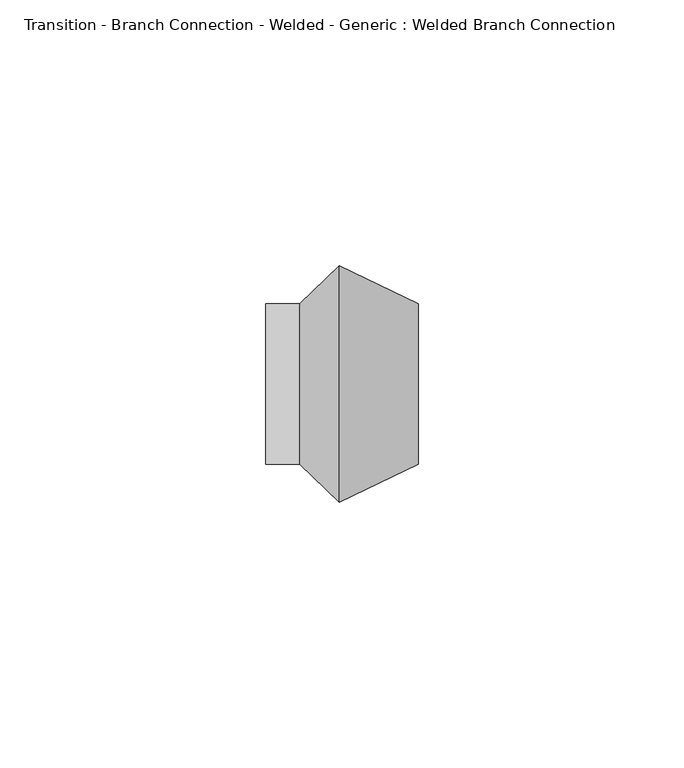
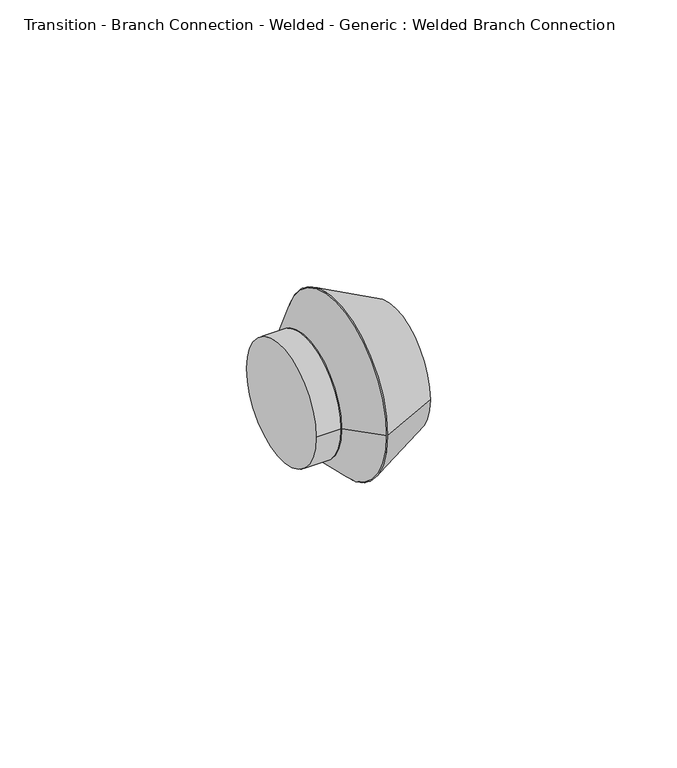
"""IFC4 building model written with IfcOpenShell, lengths in millimetres: pipe fitting geometry, Transition - Branch Connection - Welded - Generic : Welded Branch Connection."""

from ifc_helpers import new_model, si_unit, point, frame, origin, origin_2d, place, context, project, spatial, polyline, circle_curve, trimmed, segment, composite_curve, outline, extrude, source, transform, mapped, element, save
from ifc_brep_helpers import plane_surface, revolved_surface, advanced_brep


def transition_branch_connection_welded_generic_welded_branch_fed6c8cd(model_context):
    return source(origin(), model_context, "Body", "SolidModel", [
        advanced_brep(
        [(7.408371, 22.225, 0.0), (7.408371, -22.225, 0.0), (22.225113, 15.08125, 0.0), (22.225113, -15.08125, 0.0)],
        [
            (0, 1, circle_curve(frame((7.408371, 0.0, 0.0), z_axis=(-1.0, 0.0, 0.0), x_axis=(0.0, -1.0, 0.0)), 22.225)),
            (1, 0, circle_curve(frame((7.408371, 0.0, 0.0), z_axis=(-1.0, 0.0, 0.0), x_axis=(0.0, 1.0, 0.0)), 22.225)),
            (2, 3, circle_curve(frame((22.225113, 0.0, 0.0), z_axis=(1.0, 0.0, 0.0), x_axis=(0.0, 1.0, 0.0)), 15.08125)),
            (3, 2, circle_curve(frame((22.225113, 0.0, 0.0), z_axis=(1.0, 0.0, 0.0), x_axis=(0.0, -1.0, 0.0)), 15.08125)),
            (3, 1),
            (0, 2),
        ],
        [
            plane_surface(frame((7.408371, 0.0, 0.0), z_axis=(-1.0, 0.0, 0.0), x_axis=(0.0, 0.0, -1.0))),
            plane_surface(frame((22.225113, 0.0, 0.0), z_axis=(1.0, 0.0, 0.0), x_axis=(0.0, 0.0, -1.0))),
            revolved_surface(polyline([(22.225113, -15.081250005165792, 0.0), (7.4083710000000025, -22.225, 0.0)]), (53.5049017, 0.0, 0.0), (-1.0, 0.0, 0.0)),
            revolved_surface(polyline([(22.225113, 15.081250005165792, 0.0), (7.4083710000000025, 22.225, 0.0)]), (53.5049017, 0.0, 0.0), (-1.0, 0.0, 0.0)),
        ],
        [
            (0, [[1, 2]]),
            (1, [[3, 4]]),
            (2, [[5, -1, 6, -4]]),
            (3, [[-6, -2, -5, -3]]),
        ],
    ),
        advanced_brep(
        [(7.408371, 22.225, 0.0), (7.408371, -22.225, 0.0), (0.0, 15.08125, 0.0), (0.0, -15.08125, 0.0)],
        [
            (0, 1, circle_curve(frame((7.408371, 0.0, 0.0), z_axis=(1.0, 0.0, 0.0), x_axis=(0.0, -1.0, 0.0)), 22.225)),
            (1, 0, circle_curve(frame((7.408371, 0.0, 0.0), z_axis=(1.0, 0.0, 0.0), x_axis=(0.0, 1.0, 0.0)), 22.225)),
            (2, 3, circle_curve(frame((0.0, 0.0, 0.0), z_axis=(-1.0, 0.0, 0.0), x_axis=(0.0, 1.0, 0.0)), 15.08125)),
            (3, 2, circle_curve(frame((0.0, 0.0, 0.0), z_axis=(-1.0, 0.0, 0.0), x_axis=(0.0, -1.0, 0.0)), 15.08125)),
            (2, 0),
            (1, 3),
        ],
        [
            plane_surface(frame((7.408371, 0.0, 0.0), z_axis=(1.0, 0.0, 0.0), x_axis=(0.0, 0.0, -1.0))),
            plane_surface(frame((0.0, 0.0, 0.0), z_axis=(-1.0, 0.0, 0.0), x_axis=(0.0, 0.0, -1.0))),
            revolved_surface(polyline([(0.0, 15.08124998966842, 0.0), (7.408371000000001, 22.225, 0.0)]), (-15.6398943, 0.0, 0.0), (1.0, 0.0, 0.0)),
            revolved_surface(polyline([(0.0, -15.08124998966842, 0.0), (7.408371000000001, -22.225, 0.0)]), (-15.6398943, 0.0, 0.0), (1.0, 0.0, 0.0)),
        ],
        [
            (0, [[1, 2]]),
            (1, [[3, 4]]),
            (2, [[5, -2, 6, -3]]),
            (3, [[-6, -1, -5, -4]]),
        ],
    ),
        extrude(outline(composite_curve([segment(trimmed(circle_curve(origin_2d(), 15.08125), [point((15.08125, 0.0))], [point((-15.08125, 0.0))], False, "CARTESIAN"), True, "CONTINUOUS"), segment(trimmed(circle_curve(origin_2d(), 15.08125), [point((-15.08125, 0.0))], [point((15.08125, 0.0))], False, "CARTESIAN"), True, "CONTINUOUS")], self_intersect=False)), frame((-6.4286728, 0.0, 0.0), z_axis=(1.0, 0.0, 0.0), x_axis=(0.0, 1.0, 0.0)), (0.0, 0.0, 1.0), 6.4286728),
    ])


if __name__ == "__main__":
    model = new_model("IFC4")
    model_context = context("Model", 3, world=origin())
    ifc_project = project(units=[si_unit("LENGTHUNIT", "METRE", prefix="MILLI")], contexts=[model_context])
    site = spatial("IfcSite", under=ifc_project)
    building = spatial("IfcBuilding", under=site)
    placement = place(None, origin())
    transition_branch_connection_welded_generic_welded_branch_shape = transition_branch_connection_welded_generic_welded_branch_fed6c8cd(model_context)
    element("IfcPipeFitting", 1, ObjectType="Transition - Branch Connection - Welded - Generic : Welded Branch Connection", at=placement, inside=building, context=model_context, shape_type="MappedRepresentation", body=[
        mapped(transition_branch_connection_welded_generic_welded_branch_shape, transform((0.0, 0.0, 0.0), x_axis=(1.0, 0.0, 0.0), y_axis=(0.0, 1.0, 0.0), z_axis=(0.0, 0.0, 1.0))),
    ])
    save(model, "model.ifc")
